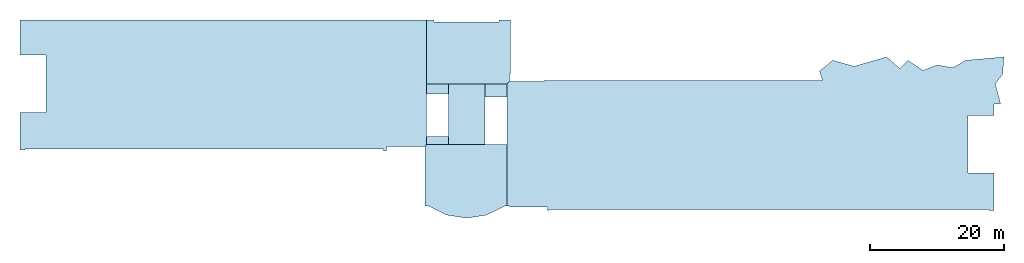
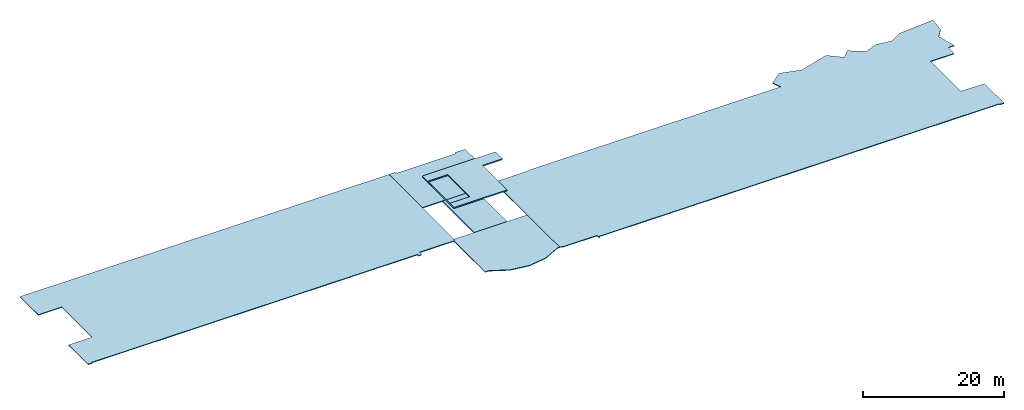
# One storey: 6 slabs.
"""IFC2X3 building model written with IfcOpenShell, lengths in millimetres."""

from ifc_helpers import new_model, si_unit, origin, place, context, project, spatial, faceted_brep, material, element, save


model = new_model("IFC2X3")

# Units and contexts
context_of_model = context(None, 3, precision=1e-05, world=origin())
ifc_project = project(units=[si_unit("LENGTHUNIT", "METRE", prefix="MILLI")], contexts=[context_of_model])

# Building, storey
building = spatial("IfcBuilding", under=ifc_project, Name="Building", CompositionType="ELEMENT")
storey = spatial("IfcBuildingStorey", under=building, Name="FL6-PLT", CompositionType="ELEMENT")

# Slabs
ifc_material_1 = material(Name="C4000")
slab_1_placement = place(None, origin())
element("IfcSlab", 1, at=slab_1_placement, inside=storey, material=ifc_material_1, Name="Floor2", PredefinedType="FLOOR", context=context_of_model, shape_type="Brep", body=[
    faceted_brep([(3300.0, 18000.0, 22296.8), (8700.0, 18000.0, 22296.8), (8700.0, 18000.0, 22500.0), (3300.0, 18000.0, 22500.0), (8700.0, 27000.0, 22296.8), (8700.0, 27000.0, 22500.0), (3300.0, 27000.0, 22296.8), (3300.0, 27000.0, 22500.0)], [[[0, 1, 2, 3]], [[1, 4, 5, 2]], [[4, 6, 7, 5]], [[6, 0, 3, 7]], [[3, 2, 5, 7]], [[0, 6, 4, 1]]]),
])
ifc_material_2 = material(Name="C4000")
slab_2_placement = place(None, origin())
element("IfcSlab", 2, at=slab_2_placement, inside=storey, material=ifc_material_2, Name="Wall202", PredefinedType="FLOOR", context=context_of_model, shape_type="Brep", body=[
    faceted_brep([(0.0, 19182.5, 28000.0), (0.0, 27000.0, 28000.0), (0.0, 27000.0, 27796.8), (0.0, 19182.5, 27796.8), (12000.0, 27000.0, 28000.0), (12000.0, 27000.0, 27796.8), (12000.0, 25000.0, 28000.0), (12000.0, 25000.0, 27796.8), (8700.0, 25000.0, 28000.0), (8700.0, 25000.0, 27796.8), (8700.0, 18000.0, 28000.0), (8700.0, 18000.0, 27796.8), (0.0, 18000.0, 28000.0), (0.0, 18000.0, 27796.8), (11.905, 25500.0, 28000.0), (0.0, 19182.5, 28000.0), (0.0, 19182.5, 27796.8), (11.905, 25500.0, 27796.8), (3300.0, 19182.5, 28000.0), (3300.0, 19182.5, 27796.8), (3300.0, 25500.0, 28000.0), (3300.0, 25500.0, 27796.8)], [[[0, 1, 2, 3]], [[1, 4, 5, 2]], [[4, 6, 7, 5]], [[6, 8, 9, 7]], [[8, 10, 11, 9]], [[10, 12, 13, 11]], [[12, 0, 3, 13]], [[14, 15, 16, 17]], [[15, 18, 19, 16]], [[18, 20, 21, 19]], [[20, 14, 17, 21]], [[3, 2, 5, 7, 9, 11, 13], [17, 16, 19, 21]], [[0, 12, 10, 8, 6, 4, 1], [14, 20, 18, 15]]]),
])
ifc_material_3 = material(Name="C3000")
slab_3_placement = place(None, origin())
element("IfcSlab", 3, at=slab_3_placement, inside=storey, material=ifc_material_3, Name="Floor56", PredefinedType="FLOOR", context=context_of_model, shape_type="Brep", body=[
    faceted_brep([(12000.0, 18000.0, 22373.0), (12000.0, 8775.0, 22373.0), (12000.0, 8775.0, 22500.0), (12000.0, 18000.0, 22500.0), (12365.0, 8775.0, 22373.0), (12365.0, 8775.0, 22500.0), (12365.0, 8635.0, 22373.0), (12365.0, 8635.0, 22500.0), (18038.0, 8635.0, 22373.0), (18038.0, 8635.0, 22500.0), (18038.0, 8117.0, 22373.0), (18038.0, 8117.0, 22500.0), (18258.0, 8117.0, 22373.0), (18258.0, 8117.0, 22500.0), (18258.0, 8300.0, 22373.0), (18258.0, 8300.0, 22500.0), (83775.0, 8300.0, 22373.0), (83775.0, 8300.0, 22500.0), (83775.0, 8150.0, 22373.0), (83775.0, 8150.0, 22500.0), (84500.0, 8150.0, 22373.0), (84500.0, 8150.0, 22500.0), (84500.0, 13700.0, 22373.0), (84500.0, 13700.0, 22500.0), (80650.0, 13700.0, 22373.0), (80650.0, 13700.0, 22500.0), (80650.0, 22300.0, 22373.0), (80650.0, 22300.0, 22500.0), (84500.0, 22300.0, 22373.0), (84500.0, 22300.0, 22500.0), (84500.0, 24000.0, 22373.0), (84500.0, 24000.0, 22500.0), (85500.0, 24000.0, 22373.0), (85500.0, 24000.0, 22500.0), (84700.0, 27000.0, 22373.0), (84700.0, 27000.0, 22500.0), (85800.0, 28400.0, 22373.0), (85800.0, 28400.0, 22500.0), (86000.0, 31000.0, 22373.0), (86000.0, 31000.0, 22500.0), (80300.0, 30500.0, 22373.0), (80300.0, 30500.0, 22500.0), (78400.0, 29400.0, 22373.0), (78400.0, 29400.0, 22500.0), (76000.0, 29800.0, 22373.0), (76000.0, 29800.0, 22500.0), (73961.8, 29000.0, 22373.0), (73961.8, 29000.0, 22500.0), (71700.0, 30500.0, 22373.0), (71700.0, 30500.0, 22500.0), (70500.0, 29300.0, 22373.0), (70500.0, 29300.0, 22500.0), (68500.0, 31000.0, 22373.0), (68500.0, 31000.0, 22500.0), (63700.0, 29600.0, 22373.0), (63700.0, 29600.0, 22500.0), (60500.0, 30500.0, 22373.0), (60500.0, 30500.0, 22500.0), (58533.3, 28900.0, 22373.0), (58533.3, 28900.0, 22500.0), (59000.0, 27500.0, 22373.0), (59000.0, 27500.0, 22500.0), (17500.0, 27500.0, 22373.0), (17500.0, 27500.0, 22500.0), (17500.0, 27365.0, 22373.0), (17500.0, 27365.0, 22500.0), (12365.0, 27365.0, 22373.0), (12365.0, 27365.0, 22500.0), (12000.0, 27000.0, 22373.0), (12000.0, 27000.0, 22500.0)], [[[0, 1, 2, 3]], [[1, 4, 5, 2]], [[4, 6, 7, 5]], [[6, 8, 9, 7]], [[8, 10, 11, 9]], [[10, 12, 13, 11]], [[12, 14, 15, 13]], [[14, 16, 17, 15]], [[16, 18, 19, 17]], [[18, 20, 21, 19]], [[20, 22, 23, 21]], [[22, 24, 25, 23]], [[24, 26, 27, 25]], [[26, 28, 29, 27]], [[28, 30, 31, 29]], [[30, 32, 33, 31]], [[32, 34, 35, 33]], [[34, 36, 37, 35]], [[36, 38, 39, 37]], [[38, 40, 41, 39]], [[40, 42, 43, 41]], [[42, 44, 45, 43]], [[44, 46, 47, 45]], [[46, 48, 49, 47]], [[48, 50, 51, 49]], [[50, 52, 53, 51]], [[52, 54, 55, 53]], [[54, 56, 57, 55]], [[56, 58, 59, 57]], [[58, 60, 61, 59]], [[60, 62, 63, 61]], [[62, 64, 65, 63]], [[64, 66, 67, 65]], [[66, 68, 69, 67]], [[68, 0, 3, 69]], [[3, 2, 5, 7, 9, 11, 13, 15, 17, 19, 21, 23, 25, 27, 29, 31, 33, 35, 37, 39, 41, 43, 45, 47, 49, 51, 53, 55, 57, 59, 61, 63, 65, 67, 69]], [[0, 68, 66, 64, 62, 60, 58, 56, 54, 52, 50, 48, 46, 44, 42, 40, 38, 36, 34, 32, 30, 28, 26, 24, 22, 20, 18, 16, 14, 12, 10, 8, 6, 4, 1]]]),
])
ifc_material_4 = material(Name="C3000")
slab_4_placement = place(None, origin())
element("IfcSlab", 4, at=slab_4_placement, inside=storey, material=ifc_material_4, Name="Floor57", PredefinedType="FLOOR", context=context_of_model, shape_type="Brep", body=[
    faceted_brep([(12000.0, 18000.0, 22373.0), (0.0, 18000.0, 22373.0), (0.0, 18000.0, 22500.0), (12000.0, 18000.0, 22500.0), (-225.0, 17635.0, 22373.0), (-225.0, 17635.0, 22500.0), (-225.0, 8775.0, 22373.0), (-225.0, 8775.0, 22500.0), (365.0, 8775.0, 22373.0), (365.0, 8775.0, 22500.0), (3046.03, 7454.24, 22373.0), (3046.03, 7454.24, 22500.0), (6000.0, 7000.0, 22373.0), (6000.0, 7000.0, 22500.0), (8953.97, 7454.24, 22373.0), (8953.97, 7454.24, 22500.0), (11635.0, 8775.0, 22373.0), (11635.0, 8775.0, 22500.0), (12000.0, 8775.0, 22373.0), (12000.0, 8775.0, 22500.0)], [[[0, 1, 2, 3]], [[1, 4, 5, 2]], [[4, 6, 7, 5]], [[6, 8, 9, 7]], [[8, 10, 11, 9]], [[10, 12, 13, 11]], [[12, 14, 15, 13]], [[14, 16, 17, 15]], [[16, 18, 19, 17]], [[18, 0, 3, 19]], [[3, 2, 5, 7, 9, 11, 13, 15, 17, 19]], [[0, 18, 16, 14, 12, 10, 8, 6, 4, 1]]]),
])
ifc_material_5 = material(Name="C3000")
slab_5_placement = place(None, origin())
element("IfcSlab", 5, at=slab_5_placement, inside=storey, material=ifc_material_5, Name="Floor62", PredefinedType="FLOOR", context=context_of_model, shape_type="Brep", body=[
    faceted_brep([(0.0, 27000.0, 22373.0), (0.0, 36500.0, 22373.0), (0.0, 36500.0, 22500.0), (0.0, 27000.0, 22500.0), (-500.0, 36500.0, 22373.0), (-500.0, 36500.0, 22500.0), (-3150.0, 36500.0, 22373.0), (-3150.0, 36500.0, 22500.0), (-60500.0, 36500.0, 22373.0), (-60500.0, 36500.0, 22500.0), (-60500.0, 31300.0, 22373.0), (-60500.0, 31300.0, 22500.0), (-56650.0, 31300.0, 22373.0), (-56650.0, 31300.0, 22500.0), (-56650.0, 22700.0, 22373.0), (-56650.0, 22700.0, 22500.0), (-60500.0, 22700.0, 22373.0), (-60500.0, 22700.0, 22500.0), (-60500.0, 17150.0, 22373.0), (-60500.0, 17150.0, 22500.0), (-59775.0, 17150.0, 22373.0), (-59775.0, 17150.0, 22500.0), (-59775.0, 17300.0, 22373.0), (-59775.0, 17300.0, 22500.0), (-6398.0, 17300.0, 22373.0), (-6398.0, 17300.0, 22500.0), (-6398.0, 16977.0, 22373.0), (-6398.0, 16977.0, 22500.0), (-5898.0, 16977.0, 22373.0), (-5898.0, 16977.0, 22500.0), (-5898.0, 17635.0, 22373.0), (-5898.0, 17635.0, 22500.0), (-225.0, 17635.0, 22373.0), (-225.0, 17635.0, 22500.0), (0.0, 18000.0, 22373.0), (0.0, 18000.0, 22500.0)], [[[0, 1, 2, 3]], [[1, 4, 5, 2]], [[4, 6, 7, 5]], [[6, 8, 9, 7]], [[8, 10, 11, 9]], [[10, 12, 13, 11]], [[12, 14, 15, 13]], [[14, 16, 17, 15]], [[16, 18, 19, 17]], [[18, 20, 21, 19]], [[20, 22, 23, 21]], [[22, 24, 25, 23]], [[24, 26, 27, 25]], [[26, 28, 29, 27]], [[28, 30, 31, 29]], [[30, 32, 33, 31]], [[32, 34, 35, 33]], [[34, 0, 3, 35]], [[3, 2, 5, 7, 9, 11, 13, 15, 17, 19, 21, 23, 25, 27, 29, 31, 33, 35]], [[0, 34, 32, 30, 28, 26, 24, 22, 20, 18, 16, 14, 12, 10, 8, 6, 4, 1]]]),
])
ifc_material_6 = material(Name="C3000")
slab_6_placement = place(None, origin())
element("IfcSlab", 6, at=slab_6_placement, inside=storey, material=ifc_material_6, Name="Floor63", PredefinedType="FLOOR", context=context_of_model, shape_type="Brep", body=[
    faceted_brep([(0.0, 27000.0, 22373.0), (12000.0, 27000.0, 22373.0), (12000.0, 27000.0, 22500.0), (0.0, 27000.0, 22500.0), (12365.0, 27365.0, 22373.0), (12365.0, 27365.0, 22500.0), (12365.0, 28500.0, 22373.0), (12365.0, 28500.0, 22500.0), (12500.0, 28500.0, 22373.0), (12500.0, 28500.0, 22500.0), (12500.0, 36500.0, 22373.0), (12500.0, 36500.0, 22500.0), (10827.0, 36500.0, 22373.0), (10827.0, 36500.0, 22500.0), (10827.0, 36225.0, 22373.0), (10827.0, 36225.0, 22500.0), (1173.0, 36225.0, 22373.0), (1173.0, 36225.0, 22500.0), (1173.0, 36500.0, 22373.0), (1173.0, 36500.0, 22500.0), (0.0, 36500.0, 22373.0), (0.0, 36500.0, 22500.0)], [[[0, 1, 2, 3]], [[1, 4, 5, 2]], [[4, 6, 7, 5]], [[6, 8, 9, 7]], [[8, 10, 11, 9]], [[10, 12, 13, 11]], [[12, 14, 15, 13]], [[14, 16, 17, 15]], [[16, 18, 19, 17]], [[18, 20, 21, 19]], [[20, 0, 3, 21]], [[3, 2, 5, 7, 9, 11, 13, 15, 17, 19, 21]], [[0, 20, 18, 16, 14, 12, 10, 8, 6, 4, 1]]]),
])

save(model, "model.ifc")
